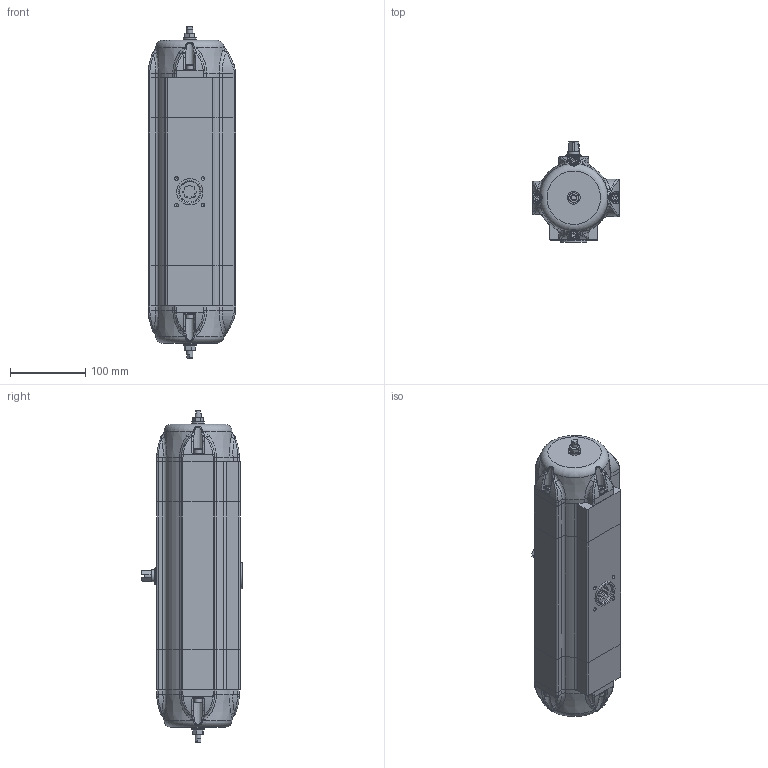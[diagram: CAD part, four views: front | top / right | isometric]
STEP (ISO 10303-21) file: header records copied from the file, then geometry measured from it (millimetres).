
FILE_DESCRIPTION((''),'2;1');
FILE_NAME('Y:\DOKUMENTATION ANTRIEBSPROGRAMM\AKTUELLES ANTRIEBSPROGRAMM\BR03_SAD_SAF_180°\STEP-Dateien\SAF_15-180°_BR03.stp','2018-05-02T12:50:59',('mkl'),(''),'Autodesk Inventor 2013','Autodesk Inventor 2013','');
FILE_SCHEMA(('AUTOMOTIVE_DESIGN { 1 0 10303 214 1 1 1 1 }'));
Length unit declared in the file: millimetre
Products named in the file (1): ENG-063664_Shrinkwrap_1
Bounding box: 116 x 134 x 442.38 mm (x, y, z)
Surface area: 201674.5 mm2 (no closed solid volume)
Topology: 0 solids, 36 shells, 528 faces, 1730 edges, 1172 vertices
Faces by surface type: plane 193, cylinder 157, bspline 111, cone 37, torus 26, sphere 4
Full cylindrical faces by diameter (mm): 4.134 x8, 4.917 x5, 8 x2, 10 x8, 10.8 x1, 11.445 x2, 14 x1, 15.8 x1, 17 x2, 22 x1, 28 x1, 35 x1
Entity records: 23112 total; most frequent: CARTESIAN_POINT 8919, ORIENTED_EDGE 2616, DIRECTION 2544, EDGE_CURVE 1636, VERTEX_POINT 1142, AXIS2_PLACEMENT_3D 962, EDGE_LOOP 631, VECTOR 620
